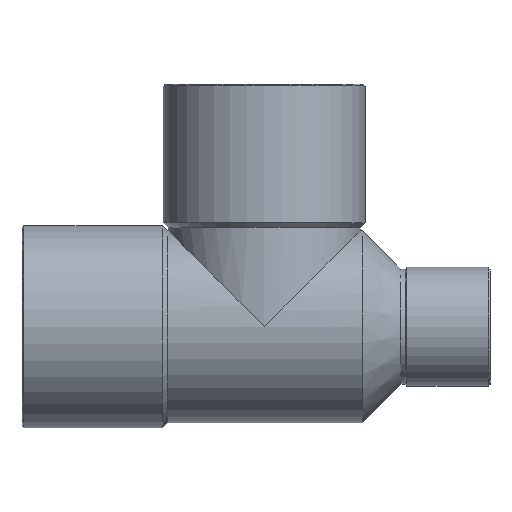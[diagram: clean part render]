
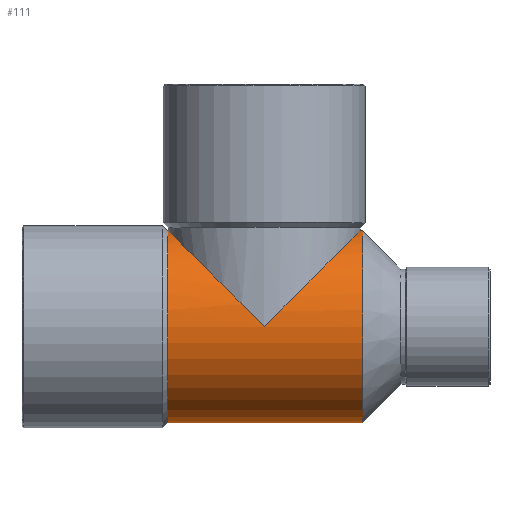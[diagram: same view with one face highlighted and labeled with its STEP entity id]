
A CAD part, top view. The second image highlights one B-rep face of the part: STEP entity #111.
In plain terms, the highlighted cylindrical face has radius 11.5 mm (diameter 23 mm), a partial arc.
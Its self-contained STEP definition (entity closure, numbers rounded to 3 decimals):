
#44=CARTESIAN_POINT('',(-1.,0.,0.0));
#45=DIRECTION('',(1.0,0.,0.0));
#46=DIRECTION('',(0.0,1.0,0.0));
#47=AXIS2_PLACEMENT_3D('',#44,#45,#46);
#48=CYLINDRICAL_SURFACE('',#47,11.5);
#49=CARTESIAN_POINT('',(-11.582,11.5,0.));
#50=VERTEX_POINT('',#49);
#51=CARTESIAN_POINT('',(-11.5,11.5,0.));
#52=VERTEX_POINT('',#51);
#53=CARTESIAN_POINT('',(-11.582,11.5,0.));
#54=DIRECTION('',(1.0,0.0,0.0));
#55=VECTOR('',#54,0.082);
#56=LINE('',#53,#55);
#57=EDGE_CURVE('',#50,#52,#56,.T.);
#58=ORIENTED_EDGE('',*,*,#57,.F.);
#59=CARTESIAN_POINT('',(-11.582,-11.5,0.));
#60=VERTEX_POINT('',#59);
#61=CARTESIAN_POINT('',(-11.582,0.,0.0));
#62=DIRECTION('',(1.0,0.0,0.0));
#63=DIRECTION('',(0.0,1.0,0.0));
#64=AXIS2_PLACEMENT_3D('',#61,#62,#63);
#65=CIRCLE('',#64,11.5);
#66=EDGE_CURVE('',#50,#60,#65,.T.);
#67=ORIENTED_EDGE('',*,*,#66,.T.);
#68=CARTESIAN_POINT('',(11.746,-11.5,0.));
#69=VERTEX_POINT('',#68);
#70=CARTESIAN_POINT('',(11.746,-11.5,0.));
#71=DIRECTION('',(-1.0,0.0,0.0));
#72=VECTOR('',#71,23.328);
#73=LINE('',#70,#72);
#74=EDGE_CURVE('',#69,#60,#73,.T.);
#75=ORIENTED_EDGE('',*,*,#74,.F.);
#76=CARTESIAN_POINT('',(11.746,11.5,0.0));
#77=VERTEX_POINT('',#76);
#78=CARTESIAN_POINT('',(11.746,0.,0.0));
#79=DIRECTION('',(-1.0,0.0,0.0));
#80=DIRECTION('',(0.0,1.0,0.0));
#81=AXIS2_PLACEMENT_3D('',#78,#79,#80);
#82=CIRCLE('',#81,11.5);
#83=EDGE_CURVE('',#69,#77,#82,.T.);
#84=ORIENTED_EDGE('',*,*,#83,.T.);
#85=CARTESIAN_POINT('',(11.5,11.5,0.));
#86=VERTEX_POINT('',#85);
#87=CARTESIAN_POINT('',(11.5,11.5,0.));
#88=DIRECTION('',(1.0,0.0,0.0));
#89=VECTOR('',#88,0.246);
#90=LINE('',#87,#89);
#91=EDGE_CURVE('',#86,#77,#90,.T.);
#92=ORIENTED_EDGE('',*,*,#91,.F.);
#93=CARTESIAN_POINT('',(0.,0.,11.5));
#94=VERTEX_POINT('',#93);
#95=CARTESIAN_POINT('',(0.,0.,0.0));
#96=DIRECTION('',(0.707,-0.707,0.0));
#97=DIRECTION('',(0.707,0.707,0.0));
#98=AXIS2_PLACEMENT_3D('',#95,#96,#97);
#99=ELLIPSE('',#98,16.263,11.5);
#100=EDGE_CURVE('',#86,#94,#99,.T.);
#101=ORIENTED_EDGE('',*,*,#100,.T.);
#102=CARTESIAN_POINT('',(0.,0.,0.0));
#103=DIRECTION('',(-0.707,-0.707,0.0));
#104=DIRECTION('',(0.707,-0.707,0.0));
#105=AXIS2_PLACEMENT_3D('',#102,#103,#104);
#106=ELLIPSE('',#105,16.263,11.5);
#107=EDGE_CURVE('',#94,#52,#106,.T.);
#108=ORIENTED_EDGE('',*,*,#107,.T.);
#109=EDGE_LOOP('',(#58,#67,#75,#84,#92,#101,#108));
#110=FACE_OUTER_BOUND('',#109,.T.);
#111=ADVANCED_FACE('',(#110),#48,.T.);
